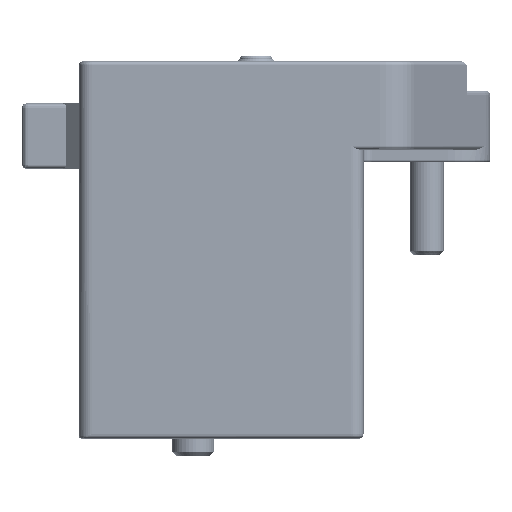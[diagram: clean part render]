
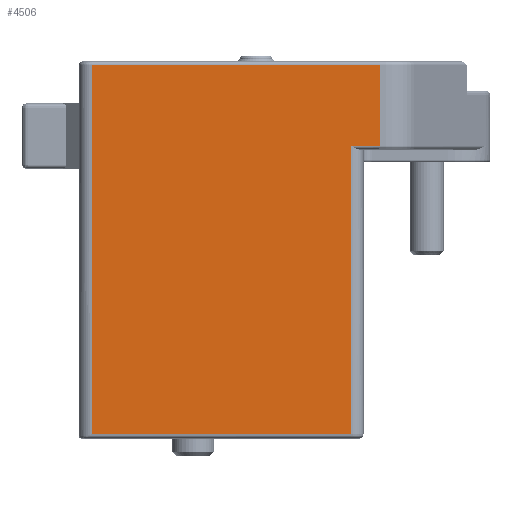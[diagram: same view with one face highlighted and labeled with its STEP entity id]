
A CAD part, left-side view. The second image highlights one B-rep face of the part: STEP entity #4506.
In plain terms, the highlighted planar face has unit normal (-1, 0, 0).
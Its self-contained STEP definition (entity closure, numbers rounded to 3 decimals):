
#2550=PLANE('',#31005);
#3099=FACE_OUTER_BOUND('',#7817,.T.);
#4506=ADVANCED_FACE('',(#3099),#2550,.T.);
#7817=EDGE_LOOP('',(#11731,#11732,#11733,#11734,#11735,#11736));
#11731=ORIENTED_EDGE('',*,*,#17947,.F.);
#11732=ORIENTED_EDGE('',*,*,#17951,.T.);
#11733=ORIENTED_EDGE('',*,*,#17952,.T.);
#11734=ORIENTED_EDGE('',*,*,#17953,.T.);
#11735=ORIENTED_EDGE('',*,*,#17954,.T.);
#11736=ORIENTED_EDGE('',*,*,#17955,.T.);
#15621=VERTEX_POINT('',#86998);
#15622=VERTEX_POINT('',#86999);
#15624=VERTEX_POINT('',#87021);
#15625=VERTEX_POINT('',#87023);
#15626=VERTEX_POINT('',#87025);
#15627=VERTEX_POINT('',#87027);
#17947=EDGE_CURVE('',#15621,#15622,#26652,.T.);
#17951=EDGE_CURVE('',#15621,#15624,#26653,.T.);
#17952=EDGE_CURVE('',#15624,#15625,#26654,.T.);
#17953=EDGE_CURVE('',#15625,#15626,#26655,.T.);
#17954=EDGE_CURVE('',#15626,#15627,#26656,.T.);
#17955=EDGE_CURVE('',#15627,#15622,#26657,.T.);
#26652=LINE('',#86997,#28814);
#26653=LINE('',#87020,#28815);
#26654=LINE('',#87022,#28816);
#26655=LINE('',#87024,#28817);
#26656=LINE('',#87026,#28818);
#26657=LINE('',#87028,#28819);
#28814=VECTOR('',#37352,1.);
#28815=VECTOR('',#37359,1.);
#28816=VECTOR('',#37360,1.);
#28817=VECTOR('',#37361,1.);
#28818=VECTOR('',#37362,1.);
#28819=VECTOR('',#37363,1.);
#31005=AXIS2_PLACEMENT_3D('',#87029,#37364,#37365);
#37352=DIRECTION('',(0.,-1.,0.));
#37359=DIRECTION('',(0.,0.,1.));
#37360=DIRECTION('',(0.,1.,0.));
#37361=DIRECTION('',(0.,0.,-1.));
#37362=DIRECTION('',(0.,-1.,0.));
#37363=DIRECTION('',(0.,0.,1.));
#37364=DIRECTION('',(-1.,0.,0.));
#37365=DIRECTION('',(0.,0.,-1.));
#86997=CARTESIAN_POINT('',(-2.75,89.5,64.5));
#86998=CARTESIAN_POINT('',(-2.75,69.5,64.5));
#86999=CARTESIAN_POINT('',(-2.75,1.,64.5));
#87020=CARTESIAN_POINT('',(-2.75,69.5,71.514));
#87021=CARTESIAN_POINT('',(-2.75,69.5,71.514));
#87022=CARTESIAN_POINT('',(-2.75,89.5,71.514));
#87023=CARTESIAN_POINT('',(-2.75,88.5,71.514));
#87024=CARTESIAN_POINT('',(-2.75,88.5,3.));
#87025=CARTESIAN_POINT('',(-2.75,88.5,3.));
#87026=CARTESIAN_POINT('',(-2.75,89.5,3.));
#87027=CARTESIAN_POINT('',(-2.75,1.,3.));
#87028=CARTESIAN_POINT('',(-2.75,1.,3.));
#87029=CARTESIAN_POINT('',(-2.75,89.5,3.));
